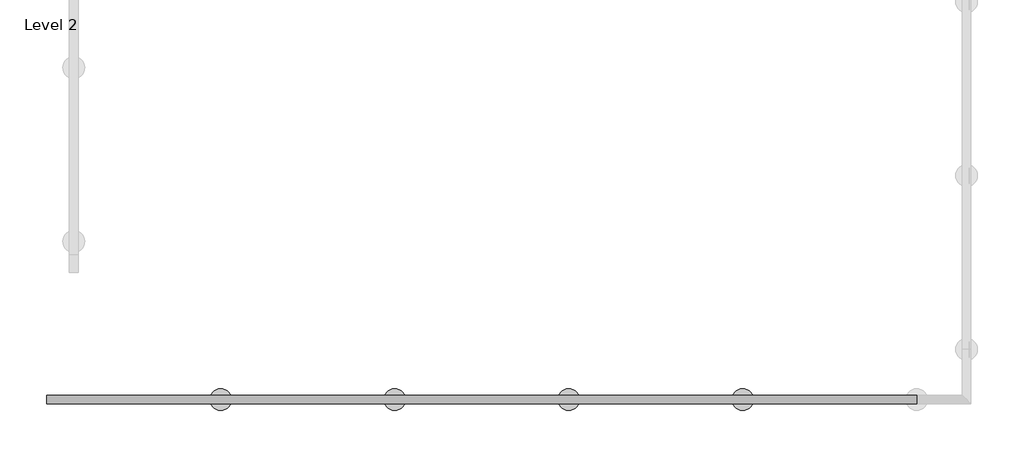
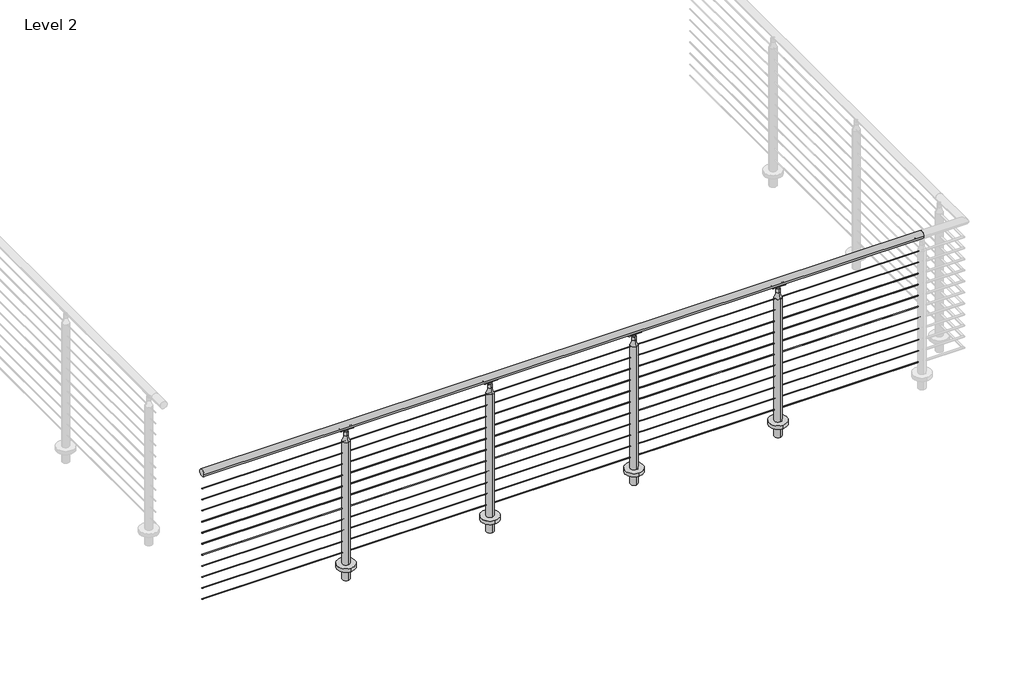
# One storey, part 18 of 21: 1 railing.
"""IFC4 building model written with IfcOpenShell, lengths in millimetres."""

from ifc_helpers import new_model, si_unit, point, frame, frame_2d, origin, place, context, project, spatial, polyline, circle_curve, ellipse_curve, trimmed, segment, composite_curve, outline, extrude, element, save
from ifc_brep_helpers import plane_surface, cylinder_surface, revolved_surface, advanced_brep

model = new_model("IFC4")

# Units and contexts
model_context = context("Model", 3, world=origin())
ifc_project = project(units=[si_unit("LENGTHUNIT", "METRE", prefix="MILLI")], contexts=[model_context])

# Site, building, storey
site = spatial("IfcSite", under=ifc_project)
building = spatial("IfcBuilding", under=site)
storey = spatial("IfcBuildingStorey", under=building, Name="Level 2", Elevation=3048.0)

# Railing
placement = place(None, origin())
element("IfcRailing", 1, ObjectType="VIVA-CIRCA-Cable-Core Mount-Straight", at=placement, inside=storey, context=model_context, shape_type="SolidModel", body=[
    extrude(outline(composite_curve([segment(trimmed(circle_curve(frame_2d((-52104.7426165, 4102.1)), 25.4), [point((-52130.1426165, 4102.1))], [point((-52079.3426165, 4102.1))], False, "CARTESIAN"), True, "CONTINUOUS"), segment(trimmed(circle_curve(frame_2d((-52104.7426165, 4102.1)), 25.4), [point((-52079.3426165, 4102.1))], [point((-52130.1426165, 4102.1))], False, "CARTESIAN"), True, "CONTINUOUS")], self_intersect=False)), frame((65723.1810647, 0.0, 0.0), z_axis=(1.0, 0.0, 0.0), x_axis=(0.0, 1.0, 0.0)), (0.0, 0.0, 1.0), 5080.0),
    extrude(outline(composite_curve([segment(trimmed(circle_curve(frame_2d((-52104.7426165, 3985.4124)), 2.3876), [point((-52102.3550165, 3985.4124))], [point((-52107.1302165, 3985.4124))], False, "CARTESIAN"), True, "CONTINUOUS"), segment(trimmed(circle_curve(frame_2d((-52104.7426165, 3985.4124)), 2.3876), [point((-52107.1302165, 3985.4124))], [point((-52102.3550165, 3985.4124))], False, "CARTESIAN"), True, "CONTINUOUS")], self_intersect=False)), frame((65723.1810647, 0.0, 0.0), z_axis=(1.0, 0.0, 0.0), x_axis=(0.0, 1.0, 0.0)), (0.0, 0.0, 1.0), 5080.0),
    extrude(outline(composite_curve([segment(trimmed(circle_curve(frame_2d((-52104.7426165, 3902.8624)), 2.3876), [point((-52102.3550165, 3902.8624))], [point((-52107.1302165, 3902.8624))], False, "CARTESIAN"), True, "CONTINUOUS"), segment(trimmed(circle_curve(frame_2d((-52104.7426165, 3902.8624)), 2.3876), [point((-52107.1302165, 3902.8624))], [point((-52102.3550165, 3902.8624))], False, "CARTESIAN"), True, "CONTINUOUS")], self_intersect=False)), frame((65723.1810647, 0.0, 0.0), z_axis=(1.0, 0.0, 0.0), x_axis=(0.0, 1.0, 0.0)), (0.0, 0.0, 1.0), 5080.0),
    extrude(outline(composite_curve([segment(trimmed(circle_curve(frame_2d((-52104.7426165, 3820.3124)), 2.3876), [point((-52102.3550165, 3820.3124))], [point((-52107.1302165, 3820.3124))], False, "CARTESIAN"), True, "CONTINUOUS"), segment(trimmed(circle_curve(frame_2d((-52104.7426165, 3820.3124)), 2.3876), [point((-52107.1302165, 3820.3124))], [point((-52102.3550165, 3820.3124))], False, "CARTESIAN"), True, "CONTINUOUS")], self_intersect=False)), frame((65723.1810647, 0.0, 0.0), z_axis=(1.0, 0.0, 0.0), x_axis=(0.0, 1.0, 0.0)), (0.0, 0.0, 1.0), 5080.0),
    extrude(outline(composite_curve([segment(trimmed(circle_curve(frame_2d((-52104.7426165, 3737.7624)), 2.3876), [point((-52102.3550165, 3737.7624))], [point((-52107.1302165, 3737.7624))], False, "CARTESIAN"), True, "CONTINUOUS"), segment(trimmed(circle_curve(frame_2d((-52104.7426165, 3737.7624)), 2.3876), [point((-52107.1302165, 3737.7624))], [point((-52102.3550165, 3737.7624))], False, "CARTESIAN"), True, "CONTINUOUS")], self_intersect=False)), frame((65723.1810647, 0.0, 0.0), z_axis=(1.0, 0.0, 0.0), x_axis=(0.0, 1.0, 0.0)), (0.0, 0.0, 1.0), 5080.0),
    extrude(outline(composite_curve([segment(trimmed(circle_curve(frame_2d((-52104.7426165, 3655.2124)), 2.3876), [point((-52102.3550165, 3655.2124))], [point((-52107.1302165, 3655.2124))], False, "CARTESIAN"), True, "CONTINUOUS"), segment(trimmed(circle_curve(frame_2d((-52104.7426165, 3655.2124)), 2.3876), [point((-52107.1302165, 3655.2124))], [point((-52102.3550165, 3655.2124))], False, "CARTESIAN"), True, "CONTINUOUS")], self_intersect=False)), frame((65723.1810647, 0.0, 0.0), z_axis=(1.0, 0.0, 0.0), x_axis=(0.0, 1.0, 0.0)), (0.0, 0.0, 1.0), 5080.0),
    extrude(outline(composite_curve([segment(trimmed(circle_curve(frame_2d((-52104.7426165, 3572.6624)), 2.3876), [point((-52102.3550165, 3572.6624))], [point((-52107.1302165, 3572.6624))], False, "CARTESIAN"), True, "CONTINUOUS"), segment(trimmed(circle_curve(frame_2d((-52104.7426165, 3572.6624)), 2.3876), [point((-52107.1302165, 3572.6624))], [point((-52102.3550165, 3572.6624))], False, "CARTESIAN"), True, "CONTINUOUS")], self_intersect=False)), frame((65723.1810647, 0.0, 0.0), z_axis=(1.0, 0.0, 0.0), x_axis=(0.0, 1.0, 0.0)), (0.0, 0.0, 1.0), 5080.0),
    extrude(outline(composite_curve([segment(trimmed(circle_curve(frame_2d((-52104.7426165, 3490.1124)), 2.3876), [point((-52102.3550165, 3490.1124))], [point((-52107.1302165, 3490.1124))], False, "CARTESIAN"), True, "CONTINUOUS"), segment(trimmed(circle_curve(frame_2d((-52104.7426165, 3490.1124)), 2.3876), [point((-52107.1302165, 3490.1124))], [point((-52102.3550165, 3490.1124))], False, "CARTESIAN"), True, "CONTINUOUS")], self_intersect=False)), frame((65723.1810647, 0.0, 0.0), z_axis=(1.0, 0.0, 0.0), x_axis=(0.0, 1.0, 0.0)), (0.0, 0.0, 1.0), 5080.0),
    extrude(outline(composite_curve([segment(trimmed(circle_curve(frame_2d((-52104.7426165, 3407.5624)), 2.3876), [point((-52102.3550165, 3407.5624))], [point((-52107.1302165, 3407.5624))], False, "CARTESIAN"), True, "CONTINUOUS"), segment(trimmed(circle_curve(frame_2d((-52104.7426165, 3407.5624)), 2.3876), [point((-52107.1302165, 3407.5624))], [point((-52102.3550165, 3407.5624))], False, "CARTESIAN"), True, "CONTINUOUS")], self_intersect=False)), frame((65723.1810647, 0.0, 0.0), z_axis=(1.0, 0.0, 0.0), x_axis=(0.0, 1.0, 0.0)), (0.0, 0.0, 1.0), 5080.0),
    extrude(outline(composite_curve([segment(trimmed(circle_curve(frame_2d((-52104.7426165, 3325.0124)), 2.3876), [point((-52102.3550165, 3325.0124))], [point((-52107.1302165, 3325.0124))], False, "CARTESIAN"), True, "CONTINUOUS"), segment(trimmed(circle_curve(frame_2d((-52104.7426165, 3325.0124)), 2.3876), [point((-52107.1302165, 3325.0124))], [point((-52102.3550165, 3325.0124))], False, "CARTESIAN"), True, "CONTINUOUS")], self_intersect=False)), frame((65723.1810647, 0.0, 0.0), z_axis=(1.0, 0.0, 0.0), x_axis=(0.0, 1.0, 0.0)), (0.0, 0.0, 1.0), 5080.0),
    extrude(outline(composite_curve([segment(trimmed(circle_curve(frame_2d((-52104.7426165, 3242.4624)), 2.3876), [point((-52102.3550165, 3242.4624))], [point((-52107.1302165, 3242.4624))], False, "CARTESIAN"), True, "CONTINUOUS"), segment(trimmed(circle_curve(frame_2d((-52104.7426165, 3242.4624)), 2.3876), [point((-52107.1302165, 3242.4624))], [point((-52102.3550165, 3242.4624))], False, "CARTESIAN"), True, "CONTINUOUS")], self_intersect=False)), frame((65723.1810647, 0.0, 0.0), z_axis=(1.0, 0.0, 0.0), x_axis=(0.0, 1.0, 0.0)), (0.0, 0.0, 1.0), 5080.0),
    extrude(outline(composite_curve([segment(trimmed(circle_curve(frame_2d((-52104.7426165, 3159.9124)), 2.3876), [point((-52102.3550165, 3159.9124))], [point((-52107.1302165, 3159.9124))], False, "CARTESIAN"), True, "CONTINUOUS"), segment(trimmed(circle_curve(frame_2d((-52104.7426165, 3159.9124)), 2.3876), [point((-52107.1302165, 3159.9124))], [point((-52102.3550165, 3159.9124))], False, "CARTESIAN"), True, "CONTINUOUS")], self_intersect=False)), frame((65723.1810647, 0.0, 0.0), z_axis=(1.0, 0.0, 0.0), x_axis=(0.0, 1.0, 0.0)), (0.0, 0.0, 1.0), 5080.0),
    extrude(outline(composite_curve([segment(trimmed(circle_curve(frame_2d((69787.5779397, -52104.7426165)), 63.5), [point((69787.5779397, -52168.2426165))], [point((69787.5779397, -52041.2426165))], False, "CARTESIAN"), True, "CONTINUOUS"), segment(trimmed(circle_curve(frame_2d((69787.5779397, -52104.7426165)), 63.5), [point((69787.5779397, -52041.2426165))], [point((69787.5779397, -52168.2426165))], False, "CARTESIAN"), True, "CONTINUOUS")], self_intersect=False)), frame((0.0, 0.0, 3048.0), z_axis=(0.0, 0.0, 1.0), x_axis=(1.0, 0.0, 0.0)), (0.0, 0.0, 1.0), 25.4),
    extrude(outline(composite_curve([segment(trimmed(circle_curve(frame_2d((-52104.6458882, 4103.4254922)), 25.4345159), [point((-52117.2096911, 4081.3106679))], [point((-52092.2506544, 4081.2157471))], True, "CARTESIAN"), True, "CONTINUOUS"), segment(trimmed(circle_curve(frame_2d((-52091.0060013, 4078.7132623)), 2.7949225), [point((-52092.2506544, 4081.2157471))], [point((-52089.5286962, 4076.3406769))], False, "CARTESIAN"), True, "CONTINUOUS"), segment(trimmed(circle_curve(frame_2d((-52104.7793513, 4104.1881188)), 31.75), [point((-52089.5286962, 4076.3406769))], [point((-52121.0455885, 4076.9214354))], False, "CARTESIAN"), True, "CONTINUOUS"), segment(trimmed(circle_curve(frame_2d((-52118.7572487, 4078.7923545)), 2.9558141), [point((-52121.0455885, 4076.9214354))], [point((-52117.2096911, 4081.3106679))], False, "CARTESIAN"), True, "CONTINUOUS")], self_intersect=False)), frame((69742.3405397, 0.0, 0.0), z_axis=(1.0, 0.0, 0.0), x_axis=(0.0, 1.0, 0.0)), (0.0, 0.0, 1.0), 90.4748),
    advanced_brep(
    [(69814.6458546, -52102.2026165, 4072.6506908), (69800.2779397, -52102.2026165, 4058.282776), (69774.8779397, -52102.2026165, 4058.282776), (69760.5100249, -52102.2026165, 4072.6506908), (69814.6458546, -52107.2826165, 4072.6506908), (69760.5100249, -52107.2826165, 4072.6506908), (69774.8779397, -52107.2826165, 4058.282776), (69800.2779397, -52107.2826165, 4058.282776)],
    [
        (0, 1, circle_curve(frame((69814.6458546, -52102.2026165, 4058.282776), z_axis=(0.0, -1.0, 0.0), x_axis=(-1.0, 0.0, 0.0)), 14.3679149)),
        (1, 2, circle_curve(frame((69787.5779397, -52102.2026165, 4058.282776), z_axis=(0.0, 1.0, 0.0), x_axis=(-1.0, 0.0, 0.0)), 12.7)),
        (2, 3, circle_curve(frame((69760.5100249, -52102.2026165, 4058.282776), z_axis=(0.0, -1.0, 0.0), x_axis=(-1.0, 0.0, 0.0)), 14.3679149)),
        (3, 0),
        (4, 5),
        (5, 6, circle_curve(frame((69760.5100249, -52107.2826165, 4058.282776), z_axis=(0.0, 1.0, 0.0), x_axis=(-1.0, 0.0, 0.0)), 14.3679149)),
        (6, 7, circle_curve(frame((69787.5779397, -52107.2826165, 4058.282776), z_axis=(0.0, -1.0, 0.0), x_axis=(-1.0, 0.0, 0.0)), 12.7)),
        (7, 4, circle_curve(frame((69814.6458546, -52107.2826165, 4058.282776), z_axis=(0.0, 1.0, 0.0), x_axis=(-1.0, 0.0, 0.0)), 14.3679149)),
        (0, 4),
        (7, 1),
        (6, 2),
        (5, 3),
    ],
    [
        plane_surface(frame((69800.2779397, -52102.2026165, 4058.282776), z_axis=(0.0, 1.0, 0.0), x_axis=(0.0, 0.0, -1.0))),
        plane_surface(frame((69800.2779397, -52107.2826165, 4058.282776), z_axis=(0.0, -1.0, 0.0), x_axis=(0.0, 0.0, 1.0))),
        revolved_surface(polyline([(69800.27793970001, -52107.2826165, 4058.282776), (69800.27793970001, -52102.2026165, 4058.282776)]), (69814.6458546, -52107.2826165, 4058.282776), (0.0, -1.0, 0.0)),
        cylinder_surface(frame((69787.5779397, -52107.2826165, 4058.282776), z_axis=(0.0, 1.0, 0.0), x_axis=(-1.0, 0.0, 0.0)), 12.7),
        revolved_surface(polyline([(69746.14211, -52107.2826165, 4058.282776), (69746.14211, -52102.2026165, 4058.282776)]), (69760.5100249, -52107.2826165, 4058.282776), (0.0, -1.0, 0.0)),
        plane_surface(frame((69760.5100249, -52102.2026165, 4072.6506908), z_axis=(0.0, 0.0, 1.0), x_axis=(0.0, -1.0, 0.0))),
    ],
    [
        (0, [[1, 2, 3, 4]]),
        (1, [[5, 6, 7, 8]]),
        (2, [[-1, 9, -8, 10]]),
        (3, [[-2, -10, -7, 11]]),
        (4, [[-3, -11, -6, 12]]),
        (5, [[-4, -12, -5, -9]]),
    ],
),
    advanced_brep(
    [(69787.5779397, -52130.1420143, 3989.1347854), (69787.5779397, -52079.3432187, 3989.1347854), (69787.5779397, -52079.3432187, 2959.1), (69787.5779397, -52130.1420143, 2959.1), (69787.5779397, -52117.4805851, 4027.3486202), (69787.5779397, -52092.004648, 4027.3486202), (69787.5779397, -52117.4805851, 4056.5779599), (69787.5779397, -52092.004648, 4056.5779599), (69787.5779397, -52104.7426165, 4063.238668), (69787.5779397, -52104.7426165, 2959.1)],
    [
        (0, 1, circle_curve(frame((69787.5779397, -52104.7426165, 3989.1347854), z_axis=(0.0, 0.0, -1.0), x_axis=(0.0, 1.0, 0.0)), 25.3993978)),
        (1, 2),
        (2, 3, circle_curve(frame((69787.5779397, -52104.7426165, 2959.1), z_axis=(0.0, 0.0, 1.0), x_axis=(0.0, 1.0, 0.0)), 25.3993978)),
        (3, 0),
        (1, 0, circle_curve(frame((69787.5779397, -52104.7426165, 3989.1347854), z_axis=(0.0, 0.0, -1.0), x_axis=(0.0, 1.0, 0.0)), 25.3993978)),
        (3, 2, circle_curve(frame((69787.5779397, -52104.7426165, 2959.1), z_axis=(0.0, 0.0, 1.0), x_axis=(0.0, 1.0, 0.0)), 25.3993978)),
        (4, 5, circle_curve(frame((69787.5779397, -52104.7426165, 4027.3486202), z_axis=(0.0, 0.0, -1.0), x_axis=(0.0, 1.0, 0.0)), 12.7379685)),
        (5, 1, circle_curve(frame((69787.5779397, -52028.0067797, 4027.3486202), z_axis=(1.0, 0.0, 0.0), x_axis=(0.0, 1.0, 0.0)), 63.9978683)),
        (0, 4, circle_curve(frame((69787.5779397, -52181.4784534, 4027.3486202), z_axis=(1.0, 0.0, 0.0), x_axis=(0.0, -1.0, 0.0)), 63.9978683)),
        (5, 4, circle_curve(frame((69787.5779397, -52104.7426165, 4027.3486202), z_axis=(0.0, 0.0, -1.0), x_axis=(0.0, 1.0, 0.0)), 12.7379685)),
        (6, 7, circle_curve(frame((69787.5779397, -52104.7426165, 4056.5779599), z_axis=(0.0, 0.0, -1.0), x_axis=(0.0, 1.0, 0.0)), 12.7379685)),
        (7, 5),
        (4, 6),
        (7, 6, circle_curve(frame((69787.5779397, -52104.7426165, 4056.5779599), z_axis=(0.0, 0.0, -1.0), x_axis=(0.0, 1.0, 0.0)), 12.7379685)),
        (8, 7, circle_curve(frame((69787.5779397, -52104.7426165, 4047.7282394), z_axis=(-1.0, 0.0, 0.0), x_axis=(0.0, 1.0, 0.0)), 15.5104286)),
        (6, 8, circle_curve(frame((69787.5779397, -52104.7426165, 4047.7282394), z_axis=(-1.0, 0.0, 0.0), x_axis=(0.0, -1.0, 0.0)), 15.5104286)),
        (2, 9),
        (9, 3),
    ],
    [
        cylinder_surface(frame((69787.5779397, -52104.7426165, 4152.9), z_axis=(0.0, 0.0, 1.0), x_axis=(0.0, 1.0, 0.0)), 25.3993978),
        revolved_surface(trimmed(ellipse_curve(frame((69787.5779397, -52028.0067797, 4027.3486202), z_axis=(-1.0, 0.0, 0.0), x_axis=(0.0, 1.0, 0.0)), 63.9978683, 63.9978683), [point((69787.5779397, -52079.3432187, 3989.1347854))], [point((69787.5779397, -52092.004648, 4027.3486202))], True, "CARTESIAN"), (69787.5779397, -52104.7426165, 4152.9), (0.0, 0.0, 1.0)),
        cylinder_surface(frame((69787.5779397, -52104.7426165, 4152.9), z_axis=(0.0, 0.0, 1.0), x_axis=(0.0, 1.0, 0.0)), 12.7379685),
        revolved_surface(trimmed(ellipse_curve(frame((69787.5779397, -52104.7426165, 4047.7282394), z_axis=(1.0, 0.0, 0.0), x_axis=(0.0, 1.0, 0.0)), 15.5104286, 15.5104286), [point((69787.5779397, -52092.004648, 4056.5779599))], [point((69787.5779397, -52104.7426165, 4063.238668))], True, "CARTESIAN"), (69787.5779397, -52104.7426165, 4152.9), (0.0, 0.0, 1.0)),
        plane_surface(frame((69787.5779397, -52104.7426165, 2959.1), z_axis=(0.0, 0.0, -1.0), x_axis=(0.0, 1.0, 0.0))),
    ],
    [
        (0, [[1, 2, 3, 4]]),
        (0, [[5, -4, 6, -2]]),
        (1, [[7, 8, -1, 9]]),
        (1, [[10, -9, -5, -8]]),
        (2, [[11, 12, -7, 13]]),
        (2, [[14, -13, -10, -12]]),
        (3, [[15, -11, 16]]),
        (3, [[-16, -14, -15]]),
        (4, [[-3, 17, 18]]),
        (4, [[-6, -18, -17]]),
    ],
),
    extrude(outline(composite_curve([segment(trimmed(circle_curve(frame_2d((68771.5779397, -52104.7426165)), 63.5), [point((68771.5779397, -52168.2426165))], [point((68771.5779397, -52041.2426165))], False, "CARTESIAN"), True, "CONTINUOUS"), segment(trimmed(circle_curve(frame_2d((68771.5779397, -52104.7426165)), 63.5), [point((68771.5779397, -52041.2426165))], [point((68771.5779397, -52168.2426165))], False, "CARTESIAN"), True, "CONTINUOUS")], self_intersect=False)), frame((0.0, 0.0, 3048.0), z_axis=(0.0, 0.0, 1.0), x_axis=(1.0, 0.0, 0.0)), (0.0, 0.0, 1.0), 25.4),
    extrude(outline(composite_curve([segment(trimmed(circle_curve(frame_2d((-52104.6458882, 4103.4254922)), 25.4345159), [point((-52117.2096911, 4081.3106679))], [point((-52092.2506544, 4081.2157471))], True, "CARTESIAN"), True, "CONTINUOUS"), segment(trimmed(circle_curve(frame_2d((-52091.0060013, 4078.7132623)), 2.7949225), [point((-52092.2506544, 4081.2157471))], [point((-52089.5286962, 4076.3406769))], False, "CARTESIAN"), True, "CONTINUOUS"), segment(trimmed(circle_curve(frame_2d((-52104.7793513, 4104.1881188)), 31.75), [point((-52089.5286962, 4076.3406769))], [point((-52121.0455885, 4076.9214354))], False, "CARTESIAN"), True, "CONTINUOUS"), segment(trimmed(circle_curve(frame_2d((-52118.7572487, 4078.7923545)), 2.9558141), [point((-52121.0455885, 4076.9214354))], [point((-52117.2096911, 4081.3106679))], False, "CARTESIAN"), True, "CONTINUOUS")], self_intersect=False)), frame((68726.3405397, 0.0, 0.0), z_axis=(1.0, 0.0, 0.0), x_axis=(0.0, 1.0, 0.0)), (0.0, 0.0, 1.0), 90.4748),
    advanced_brep(
    [(68798.6458546, -52102.2026165, 4072.6506908), (68784.2779397, -52102.2026165, 4058.282776), (68758.8779397, -52102.2026165, 4058.282776), (68744.5100249, -52102.2026165, 4072.6506908), (68798.6458546, -52107.2826165, 4072.6506908), (68744.5100249, -52107.2826165, 4072.6506908), (68758.8779397, -52107.2826165, 4058.282776), (68784.2779397, -52107.2826165, 4058.282776)],
    [
        (0, 1, circle_curve(frame((68798.6458546, -52102.2026165, 4058.282776), z_axis=(0.0, -1.0, 0.0), x_axis=(-1.0, 0.0, 0.0)), 14.3679149)),
        (1, 2, circle_curve(frame((68771.5779397, -52102.2026165, 4058.282776), z_axis=(0.0, 1.0, 0.0), x_axis=(-1.0, 0.0, 0.0)), 12.7)),
        (2, 3, circle_curve(frame((68744.5100249, -52102.2026165, 4058.282776), z_axis=(0.0, -1.0, 0.0), x_axis=(-1.0, 0.0, 0.0)), 14.3679149)),
        (3, 0),
        (4, 5),
        (5, 6, circle_curve(frame((68744.5100249, -52107.2826165, 4058.282776), z_axis=(0.0, 1.0, 0.0), x_axis=(-1.0, 0.0, 0.0)), 14.3679149)),
        (6, 7, circle_curve(frame((68771.5779397, -52107.2826165, 4058.282776), z_axis=(0.0, -1.0, 0.0), x_axis=(-1.0, 0.0, 0.0)), 12.7)),
        (7, 4, circle_curve(frame((68798.6458546, -52107.2826165, 4058.282776), z_axis=(0.0, 1.0, 0.0), x_axis=(-1.0, 0.0, 0.0)), 14.3679149)),
        (0, 4),
        (7, 1),
        (6, 2),
        (5, 3),
    ],
    [
        plane_surface(frame((68784.2779397, -52102.2026165, 4058.282776), z_axis=(0.0, 1.0, 0.0), x_axis=(0.0, 0.0, -1.0))),
        plane_surface(frame((68784.2779397, -52107.2826165, 4058.282776), z_axis=(0.0, -1.0, 0.0), x_axis=(0.0, 0.0, 1.0))),
        revolved_surface(polyline([(68784.27793970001, -52107.2826165, 4058.282776), (68784.27793970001, -52102.2026165, 4058.282776)]), (68798.6458546, -52107.2826165, 4058.282776), (0.0, -1.0, 0.0)),
        cylinder_surface(frame((68771.5779397, -52107.2826165, 4058.282776), z_axis=(0.0, 1.0, 0.0), x_axis=(-1.0, 0.0, 0.0)), 12.7),
        revolved_surface(polyline([(68730.14211, -52107.2826165, 4058.282776), (68730.14211, -52102.2026165, 4058.282776)]), (68744.5100249, -52107.2826165, 4058.282776), (0.0, -1.0, 0.0)),
        plane_surface(frame((68744.5100249, -52102.2026165, 4072.6506908), z_axis=(0.0, 0.0, 1.0), x_axis=(0.0, -1.0, 0.0))),
    ],
    [
        (0, [[1, 2, 3, 4]]),
        (1, [[5, 6, 7, 8]]),
        (2, [[-1, 9, -8, 10]]),
        (3, [[-2, -10, -7, 11]]),
        (4, [[-3, -11, -6, 12]]),
        (5, [[-4, -12, -5, -9]]),
    ],
),
    advanced_brep(
    [(68771.5779397, -52130.1420143, 3989.1347854), (68771.5779397, -52079.3432187, 3989.1347854), (68771.5779397, -52079.3432187, 2959.1), (68771.5779397, -52130.1420143, 2959.1), (68771.5779397, -52117.4805851, 4027.3486202), (68771.5779397, -52092.004648, 4027.3486202), (68771.5779397, -52117.4805851, 4056.5779599), (68771.5779397, -52092.004648, 4056.5779599), (68771.5779397, -52104.7426165, 4063.238668), (68771.5779397, -52104.7426165, 2959.1)],
    [
        (0, 1, circle_curve(frame((68771.5779397, -52104.7426165, 3989.1347854), z_axis=(0.0, 0.0, -1.0), x_axis=(0.0, 1.0, 0.0)), 25.3993978)),
        (1, 2),
        (2, 3, circle_curve(frame((68771.5779397, -52104.7426165, 2959.1), z_axis=(0.0, 0.0, 1.0), x_axis=(0.0, 1.0, 0.0)), 25.3993978)),
        (3, 0),
        (1, 0, circle_curve(frame((68771.5779397, -52104.7426165, 3989.1347854), z_axis=(0.0, 0.0, -1.0), x_axis=(0.0, 1.0, 0.0)), 25.3993978)),
        (3, 2, circle_curve(frame((68771.5779397, -52104.7426165, 2959.1), z_axis=(0.0, 0.0, 1.0), x_axis=(0.0, 1.0, 0.0)), 25.3993978)),
        (4, 5, circle_curve(frame((68771.5779397, -52104.7426165, 4027.3486202), z_axis=(0.0, 0.0, -1.0), x_axis=(0.0, 1.0, 0.0)), 12.7379685)),
        (5, 1, circle_curve(frame((68771.5779397, -52028.0067797, 4027.3486202), z_axis=(1.0, 0.0, 0.0), x_axis=(0.0, 1.0, 0.0)), 63.9978683)),
        (0, 4, circle_curve(frame((68771.5779397, -52181.4784534, 4027.3486202), z_axis=(1.0, 0.0, 0.0), x_axis=(0.0, -1.0, 0.0)), 63.9978683)),
        (5, 4, circle_curve(frame((68771.5779397, -52104.7426165, 4027.3486202), z_axis=(0.0, 0.0, -1.0), x_axis=(0.0, 1.0, 0.0)), 12.7379685)),
        (6, 7, circle_curve(frame((68771.5779397, -52104.7426165, 4056.5779599), z_axis=(0.0, 0.0, -1.0), x_axis=(0.0, 1.0, 0.0)), 12.7379685)),
        (7, 5),
        (4, 6),
        (7, 6, circle_curve(frame((68771.5779397, -52104.7426165, 4056.5779599), z_axis=(0.0, 0.0, -1.0), x_axis=(0.0, 1.0, 0.0)), 12.7379685)),
        (8, 7, circle_curve(frame((68771.5779397, -52104.7426165, 4047.7282394), z_axis=(-1.0, 0.0, 0.0), x_axis=(0.0, 1.0, 0.0)), 15.5104286)),
        (6, 8, circle_curve(frame((68771.5779397, -52104.7426165, 4047.7282394), z_axis=(-1.0, 0.0, 0.0), x_axis=(0.0, -1.0, 0.0)), 15.5104286)),
        (2, 9),
        (9, 3),
    ],
    [
        cylinder_surface(frame((68771.5779397, -52104.7426165, 4152.9), z_axis=(0.0, 0.0, 1.0), x_axis=(0.0, 1.0, 0.0)), 25.3993978),
        revolved_surface(trimmed(ellipse_curve(frame((68771.5779397, -52028.0067797, 4027.3486202), z_axis=(-1.0, 0.0, 0.0), x_axis=(0.0, 1.0, 0.0)), 63.9978683, 63.9978683), [point((68771.5779397, -52079.3432187, 3989.1347854))], [point((68771.5779397, -52092.004648, 4027.3486202))], True, "CARTESIAN"), (68771.5779397, -52104.7426165, 4152.9), (0.0, 0.0, 1.0)),
        cylinder_surface(frame((68771.5779397, -52104.7426165, 4152.9), z_axis=(0.0, 0.0, 1.0), x_axis=(0.0, 1.0, 0.0)), 12.7379685),
        revolved_surface(trimmed(ellipse_curve(frame((68771.5779397, -52104.7426165, 4047.7282394), z_axis=(1.0, 0.0, 0.0), x_axis=(0.0, 1.0, 0.0)), 15.5104286, 15.5104286), [point((68771.5779397, -52092.004648, 4056.5779599))], [point((68771.5779397, -52104.7426165, 4063.238668))], True, "CARTESIAN"), (68771.5779397, -52104.7426165, 4152.9), (0.0, 0.0, 1.0)),
        plane_surface(frame((68771.5779397, -52104.7426165, 2959.1), z_axis=(0.0, 0.0, -1.0), x_axis=(0.0, 1.0, 0.0))),
    ],
    [
        (0, [[1, 2, 3, 4]]),
        (0, [[5, -4, 6, -2]]),
        (1, [[7, 8, -1, 9]]),
        (1, [[10, -9, -5, -8]]),
        (2, [[11, 12, -7, 13]]),
        (2, [[14, -13, -10, -12]]),
        (3, [[15, -11, 16]]),
        (3, [[-16, -14, -15]]),
        (4, [[-3, 17, 18]]),
        (4, [[-6, -18, -17]]),
    ],
),
    extrude(outline(composite_curve([segment(trimmed(circle_curve(frame_2d((67755.5779397, -52104.7426165)), 63.5), [point((67755.5779397, -52168.2426165))], [point((67755.5779397, -52041.2426165))], False, "CARTESIAN"), True, "CONTINUOUS"), segment(trimmed(circle_curve(frame_2d((67755.5779397, -52104.7426165)), 63.5), [point((67755.5779397, -52041.2426165))], [point((67755.5779397, -52168.2426165))], False, "CARTESIAN"), True, "CONTINUOUS")], self_intersect=False)), frame((0.0, 0.0, 3048.0), z_axis=(0.0, 0.0, 1.0), x_axis=(1.0, 0.0, 0.0)), (0.0, 0.0, 1.0), 25.4),
    extrude(outline(composite_curve([segment(trimmed(circle_curve(frame_2d((-52104.6458882, 4103.4254922)), 25.4345159), [point((-52117.2096911, 4081.3106679))], [point((-52092.2506544, 4081.2157471))], True, "CARTESIAN"), True, "CONTINUOUS"), segment(trimmed(circle_curve(frame_2d((-52091.0060013, 4078.7132623)), 2.7949225), [point((-52092.2506544, 4081.2157471))], [point((-52089.5286962, 4076.3406769))], False, "CARTESIAN"), True, "CONTINUOUS"), segment(trimmed(circle_curve(frame_2d((-52104.7793513, 4104.1881188)), 31.75), [point((-52089.5286962, 4076.3406769))], [point((-52121.0455885, 4076.9214354))], False, "CARTESIAN"), True, "CONTINUOUS"), segment(trimmed(circle_curve(frame_2d((-52118.7572487, 4078.7923545)), 2.9558141), [point((-52121.0455885, 4076.9214354))], [point((-52117.2096911, 4081.3106679))], False, "CARTESIAN"), True, "CONTINUOUS")], self_intersect=False)), frame((67710.3405397, 0.0, 0.0), z_axis=(1.0, 0.0, 0.0), x_axis=(0.0, 1.0, 0.0)), (0.0, 0.0, 1.0), 90.4748),
    advanced_brep(
    [(67782.6458546, -52102.2026165, 4072.6506908), (67768.2779397, -52102.2026165, 4058.282776), (67742.8779397, -52102.2026165, 4058.282776), (67728.5100249, -52102.2026165, 4072.6506908), (67782.6458546, -52107.2826165, 4072.6506908), (67728.5100249, -52107.2826165, 4072.6506908), (67742.8779397, -52107.2826165, 4058.282776), (67768.2779397, -52107.2826165, 4058.282776)],
    [
        (0, 1, circle_curve(frame((67782.6458546, -52102.2026165, 4058.282776), z_axis=(0.0, -1.0, 0.0), x_axis=(-1.0, 0.0, 0.0)), 14.3679149)),
        (1, 2, circle_curve(frame((67755.5779397, -52102.2026165, 4058.282776), z_axis=(0.0, 1.0, 0.0), x_axis=(-1.0, 0.0, 0.0)), 12.7)),
        (2, 3, circle_curve(frame((67728.5100249, -52102.2026165, 4058.282776), z_axis=(0.0, -1.0, 0.0), x_axis=(-1.0, 0.0, 0.0)), 14.3679149)),
        (3, 0),
        (4, 5),
        (5, 6, circle_curve(frame((67728.5100249, -52107.2826165, 4058.282776), z_axis=(0.0, 1.0, 0.0), x_axis=(-1.0, 0.0, 0.0)), 14.3679149)),
        (6, 7, circle_curve(frame((67755.5779397, -52107.2826165, 4058.282776), z_axis=(0.0, -1.0, 0.0), x_axis=(-1.0, 0.0, 0.0)), 12.7)),
        (7, 4, circle_curve(frame((67782.6458546, -52107.2826165, 4058.282776), z_axis=(0.0, 1.0, 0.0), x_axis=(-1.0, 0.0, 0.0)), 14.3679149)),
        (0, 4),
        (7, 1),
        (6, 2),
        (5, 3),
    ],
    [
        plane_surface(frame((67768.2779397, -52102.2026165, 4058.282776), z_axis=(0.0, 1.0, 0.0), x_axis=(0.0, 0.0, -1.0))),
        plane_surface(frame((67768.2779397, -52107.2826165, 4058.282776), z_axis=(0.0, -1.0, 0.0), x_axis=(0.0, 0.0, 1.0))),
        revolved_surface(polyline([(67768.27793970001, -52107.2826165, 4058.282776), (67768.27793970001, -52102.2026165, 4058.282776)]), (67782.6458546, -52107.2826165, 4058.282776), (0.0, -1.0, 0.0)),
        cylinder_surface(frame((67755.5779397, -52107.2826165, 4058.282776), z_axis=(0.0, 1.0, 0.0), x_axis=(-1.0, 0.0, 0.0)), 12.7),
        revolved_surface(polyline([(67714.14211, -52107.2826165, 4058.282776), (67714.14211, -52102.2026165, 4058.282776)]), (67728.5100249, -52107.2826165, 4058.282776), (0.0, -1.0, 0.0)),
        plane_surface(frame((67728.5100249, -52102.2026165, 4072.6506908), z_axis=(0.0, 0.0, 1.0), x_axis=(0.0, -1.0, 0.0))),
    ],
    [
        (0, [[1, 2, 3, 4]]),
        (1, [[5, 6, 7, 8]]),
        (2, [[-1, 9, -8, 10]]),
        (3, [[-2, -10, -7, 11]]),
        (4, [[-3, -11, -6, 12]]),
        (5, [[-4, -12, -5, -9]]),
    ],
),
    advanced_brep(
    [(67755.5779397, -52130.1420143, 3989.1347854), (67755.5779397, -52079.3432187, 3989.1347854), (67755.5779397, -52079.3432187, 2959.1), (67755.5779397, -52130.1420143, 2959.1), (67755.5779397, -52117.4805851, 4027.3486202), (67755.5779397, -52092.004648, 4027.3486202), (67755.5779397, -52117.4805851, 4056.5779599), (67755.5779397, -52092.004648, 4056.5779599), (67755.5779397, -52104.7426165, 4063.238668), (67755.5779397, -52104.7426165, 2959.1)],
    [
        (0, 1, circle_curve(frame((67755.5779397, -52104.7426165, 3989.1347854), z_axis=(0.0, 0.0, -1.0), x_axis=(0.0, 1.0, 0.0)), 25.3993978)),
        (1, 2),
        (2, 3, circle_curve(frame((67755.5779397, -52104.7426165, 2959.1), z_axis=(0.0, 0.0, 1.0), x_axis=(0.0, 1.0, 0.0)), 25.3993978)),
        (3, 0),
        (1, 0, circle_curve(frame((67755.5779397, -52104.7426165, 3989.1347854), z_axis=(0.0, 0.0, -1.0), x_axis=(0.0, 1.0, 0.0)), 25.3993978)),
        (3, 2, circle_curve(frame((67755.5779397, -52104.7426165, 2959.1), z_axis=(0.0, 0.0, 1.0), x_axis=(0.0, 1.0, 0.0)), 25.3993978)),
        (4, 5, circle_curve(frame((67755.5779397, -52104.7426165, 4027.3486202), z_axis=(0.0, 0.0, -1.0), x_axis=(0.0, 1.0, 0.0)), 12.7379685)),
        (5, 1, circle_curve(frame((67755.5779397, -52028.0067797, 4027.3486202), z_axis=(1.0, 0.0, 0.0), x_axis=(0.0, 1.0, 0.0)), 63.9978683)),
        (0, 4, circle_curve(frame((67755.5779397, -52181.4784534, 4027.3486202), z_axis=(1.0, 0.0, 0.0), x_axis=(0.0, -1.0, 0.0)), 63.9978683)),
        (5, 4, circle_curve(frame((67755.5779397, -52104.7426165, 4027.3486202), z_axis=(0.0, 0.0, -1.0), x_axis=(0.0, 1.0, 0.0)), 12.7379685)),
        (6, 7, circle_curve(frame((67755.5779397, -52104.7426165, 4056.5779599), z_axis=(0.0, 0.0, -1.0), x_axis=(0.0, 1.0, 0.0)), 12.7379685)),
        (7, 5),
        (4, 6),
        (7, 6, circle_curve(frame((67755.5779397, -52104.7426165, 4056.5779599), z_axis=(0.0, 0.0, -1.0), x_axis=(0.0, 1.0, 0.0)), 12.7379685)),
        (8, 7, circle_curve(frame((67755.5779397, -52104.7426165, 4047.7282394), z_axis=(-1.0, 0.0, 0.0), x_axis=(0.0, 1.0, 0.0)), 15.5104286)),
        (6, 8, circle_curve(frame((67755.5779397, -52104.7426165, 4047.7282394), z_axis=(-1.0, 0.0, 0.0), x_axis=(0.0, -1.0, 0.0)), 15.5104286)),
        (2, 9),
        (9, 3),
    ],
    [
        cylinder_surface(frame((67755.5779397, -52104.7426165, 4152.9), z_axis=(0.0, 0.0, 1.0), x_axis=(0.0, 1.0, 0.0)), 25.3993978),
        revolved_surface(trimmed(ellipse_curve(frame((67755.5779397, -52028.0067797, 4027.3486202), z_axis=(-1.0, 0.0, 0.0), x_axis=(0.0, 1.0, 0.0)), 63.9978683, 63.9978683), [point((67755.5779397, -52079.3432187, 3989.1347854))], [point((67755.5779397, -52092.004648, 4027.3486202))], True, "CARTESIAN"), (67755.5779397, -52104.7426165, 4152.9), (0.0, 0.0, 1.0)),
        cylinder_surface(frame((67755.5779397, -52104.7426165, 4152.9), z_axis=(0.0, 0.0, 1.0), x_axis=(0.0, 1.0, 0.0)), 12.7379685),
        revolved_surface(trimmed(ellipse_curve(frame((67755.5779397, -52104.7426165, 4047.7282394), z_axis=(1.0, 0.0, 0.0), x_axis=(0.0, 1.0, 0.0)), 15.5104286, 15.5104286), [point((67755.5779397, -52092.004648, 4056.5779599))], [point((67755.5779397, -52104.7426165, 4063.238668))], True, "CARTESIAN"), (67755.5779397, -52104.7426165, 4152.9), (0.0, 0.0, 1.0)),
        plane_surface(frame((67755.5779397, -52104.7426165, 2959.1), z_axis=(0.0, 0.0, -1.0), x_axis=(0.0, 1.0, 0.0))),
    ],
    [
        (0, [[1, 2, 3, 4]]),
        (0, [[5, -4, 6, -2]]),
        (1, [[7, 8, -1, 9]]),
        (1, [[10, -9, -5, -8]]),
        (2, [[11, 12, -7, 13]]),
        (2, [[14, -13, -10, -12]]),
        (3, [[15, -11, 16]]),
        (3, [[-16, -14, -15]]),
        (4, [[-3, 17, 18]]),
        (4, [[-6, -18, -17]]),
    ],
),
    extrude(outline(composite_curve([segment(trimmed(circle_curve(frame_2d((66739.5779397, -52104.7426165)), 63.5), [point((66739.5779397, -52168.2426165))], [point((66739.5779397, -52041.2426165))], False, "CARTESIAN"), True, "CONTINUOUS"), segment(trimmed(circle_curve(frame_2d((66739.5779397, -52104.7426165)), 63.5), [point((66739.5779397, -52041.2426165))], [point((66739.5779397, -52168.2426165))], False, "CARTESIAN"), True, "CONTINUOUS")], self_intersect=False)), frame((0.0, 0.0, 3048.0), z_axis=(0.0, 0.0, 1.0), x_axis=(1.0, 0.0, 0.0)), (0.0, 0.0, 1.0), 25.4),
    extrude(outline(composite_curve([segment(trimmed(circle_curve(frame_2d((-52104.6458882, 4103.4254922)), 25.4345159), [point((-52117.2096911, 4081.3106679))], [point((-52092.2506544, 4081.2157471))], True, "CARTESIAN"), True, "CONTINUOUS"), segment(trimmed(circle_curve(frame_2d((-52091.0060013, 4078.7132623)), 2.7949225), [point((-52092.2506544, 4081.2157471))], [point((-52089.5286962, 4076.3406769))], False, "CARTESIAN"), True, "CONTINUOUS"), segment(trimmed(circle_curve(frame_2d((-52104.7793513, 4104.1881188)), 31.75), [point((-52089.5286962, 4076.3406769))], [point((-52121.0455885, 4076.9214354))], False, "CARTESIAN"), True, "CONTINUOUS"), segment(trimmed(circle_curve(frame_2d((-52118.7572487, 4078.7923545)), 2.9558141), [point((-52121.0455885, 4076.9214354))], [point((-52117.2096911, 4081.3106679))], False, "CARTESIAN"), True, "CONTINUOUS")], self_intersect=False)), frame((66694.3405397, 0.0, 0.0), z_axis=(1.0, 0.0, 0.0), x_axis=(0.0, 1.0, 0.0)), (0.0, 0.0, 1.0), 90.4748),
    advanced_brep(
    [(66766.6458546, -52102.2026165, 4072.6506908), (66752.2779397, -52102.2026165, 4058.282776), (66726.8779397, -52102.2026165, 4058.282776), (66712.5100249, -52102.2026165, 4072.6506908), (66766.6458546, -52107.2826165, 4072.6506908), (66712.5100249, -52107.2826165, 4072.6506908), (66726.8779397, -52107.2826165, 4058.282776), (66752.2779397, -52107.2826165, 4058.282776)],
    [
        (0, 1, circle_curve(frame((66766.6458546, -52102.2026165, 4058.282776), z_axis=(0.0, -1.0, 0.0), x_axis=(-1.0, 0.0, 0.0)), 14.3679149)),
        (1, 2, circle_curve(frame((66739.5779397, -52102.2026165, 4058.282776), z_axis=(0.0, 1.0, 0.0), x_axis=(-1.0, 0.0, 0.0)), 12.7)),
        (2, 3, circle_curve(frame((66712.5100249, -52102.2026165, 4058.282776), z_axis=(0.0, -1.0, 0.0), x_axis=(-1.0, 0.0, 0.0)), 14.3679149)),
        (3, 0),
        (4, 5),
        (5, 6, circle_curve(frame((66712.5100249, -52107.2826165, 4058.282776), z_axis=(0.0, 1.0, 0.0), x_axis=(-1.0, 0.0, 0.0)), 14.3679149)),
        (6, 7, circle_curve(frame((66739.5779397, -52107.2826165, 4058.282776), z_axis=(0.0, -1.0, 0.0), x_axis=(-1.0, 0.0, 0.0)), 12.7)),
        (7, 4, circle_curve(frame((66766.6458546, -52107.2826165, 4058.282776), z_axis=(0.0, 1.0, 0.0), x_axis=(-1.0, 0.0, 0.0)), 14.3679149)),
        (0, 4),
        (7, 1),
        (6, 2),
        (5, 3),
    ],
    [
        plane_surface(frame((66752.2779397, -52102.2026165, 4058.282776), z_axis=(0.0, 1.0, 0.0), x_axis=(0.0, 0.0, -1.0))),
        plane_surface(frame((66752.2779397, -52107.2826165, 4058.282776), z_axis=(0.0, -1.0, 0.0), x_axis=(0.0, 0.0, 1.0))),
        revolved_surface(polyline([(66752.27793970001, -52107.2826165, 4058.282776), (66752.27793970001, -52102.2026165, 4058.282776)]), (66766.6458546, -52107.2826165, 4058.282776), (0.0, -1.0, 0.0)),
        cylinder_surface(frame((66739.5779397, -52107.2826165, 4058.282776), z_axis=(0.0, 1.0, 0.0), x_axis=(-1.0, 0.0, 0.0)), 12.7),
        revolved_surface(polyline([(66698.14211, -52107.2826165, 4058.282776), (66698.14211, -52102.2026165, 4058.282776)]), (66712.5100249, -52107.2826165, 4058.282776), (0.0, -1.0, 0.0)),
        plane_surface(frame((66712.5100249, -52102.2026165, 4072.6506908), z_axis=(0.0, 0.0, 1.0), x_axis=(0.0, -1.0, 0.0))),
    ],
    [
        (0, [[1, 2, 3, 4]]),
        (1, [[5, 6, 7, 8]]),
        (2, [[-1, 9, -8, 10]]),
        (3, [[-2, -10, -7, 11]]),
        (4, [[-3, -11, -6, 12]]),
        (5, [[-4, -12, -5, -9]]),
    ],
),
    advanced_brep(
    [(66739.5779397, -52130.1420143, 3989.1347854), (66739.5779397, -52079.3432187, 3989.1347854), (66739.5779397, -52079.3432187, 2959.1), (66739.5779397, -52130.1420143, 2959.1), (66739.5779397, -52117.4805851, 4027.3486202), (66739.5779397, -52092.004648, 4027.3486202), (66739.5779397, -52117.4805851, 4056.5779599), (66739.5779397, -52092.004648, 4056.5779599), (66739.5779397, -52104.7426165, 4063.238668), (66739.5779397, -52104.7426165, 2959.1)],
    [
        (0, 1, circle_curve(frame((66739.5779397, -52104.7426165, 3989.1347854), z_axis=(0.0, 0.0, -1.0), x_axis=(0.0, 1.0, 0.0)), 25.3993978)),
        (1, 2),
        (2, 3, circle_curve(frame((66739.5779397, -52104.7426165, 2959.1), z_axis=(0.0, 0.0, 1.0), x_axis=(0.0, 1.0, 0.0)), 25.3993978)),
        (3, 0),
        (1, 0, circle_curve(frame((66739.5779397, -52104.7426165, 3989.1347854), z_axis=(0.0, 0.0, -1.0), x_axis=(0.0, 1.0, 0.0)), 25.3993978)),
        (3, 2, circle_curve(frame((66739.5779397, -52104.7426165, 2959.1), z_axis=(0.0, 0.0, 1.0), x_axis=(0.0, 1.0, 0.0)), 25.3993978)),
        (4, 5, circle_curve(frame((66739.5779397, -52104.7426165, 4027.3486202), z_axis=(0.0, 0.0, -1.0), x_axis=(0.0, 1.0, 0.0)), 12.7379685)),
        (5, 1, circle_curve(frame((66739.5779397, -52028.0067797, 4027.3486202), z_axis=(1.0, 0.0, 0.0), x_axis=(0.0, 1.0, 0.0)), 63.9978683)),
        (0, 4, circle_curve(frame((66739.5779397, -52181.4784534, 4027.3486202), z_axis=(1.0, 0.0, 0.0), x_axis=(0.0, -1.0, 0.0)), 63.9978683)),
        (5, 4, circle_curve(frame((66739.5779397, -52104.7426165, 4027.3486202), z_axis=(0.0, 0.0, -1.0), x_axis=(0.0, 1.0, 0.0)), 12.7379685)),
        (6, 7, circle_curve(frame((66739.5779397, -52104.7426165, 4056.5779599), z_axis=(0.0, 0.0, -1.0), x_axis=(0.0, 1.0, 0.0)), 12.7379685)),
        (7, 5),
        (4, 6),
        (7, 6, circle_curve(frame((66739.5779397, -52104.7426165, 4056.5779599), z_axis=(0.0, 0.0, -1.0), x_axis=(0.0, 1.0, 0.0)), 12.7379685)),
        (8, 7, circle_curve(frame((66739.5779397, -52104.7426165, 4047.7282394), z_axis=(-1.0, 0.0, 0.0), x_axis=(0.0, 1.0, 0.0)), 15.5104286)),
        (6, 8, circle_curve(frame((66739.5779397, -52104.7426165, 4047.7282394), z_axis=(-1.0, 0.0, 0.0), x_axis=(0.0, -1.0, 0.0)), 15.5104286)),
        (2, 9),
        (9, 3),
    ],
    [
        cylinder_surface(frame((66739.5779397, -52104.7426165, 4152.9), z_axis=(0.0, 0.0, 1.0), x_axis=(0.0, 1.0, 0.0)), 25.3993978),
        revolved_surface(trimmed(ellipse_curve(frame((66739.5779397, -52028.0067797, 4027.3486202), z_axis=(-1.0, 0.0, 0.0), x_axis=(0.0, 1.0, 0.0)), 63.9978683, 63.9978683), [point((66739.5779397, -52079.3432187, 3989.1347854))], [point((66739.5779397, -52092.004648, 4027.3486202))], True, "CARTESIAN"), (66739.5779397, -52104.7426165, 4152.9), (0.0, 0.0, 1.0)),
        cylinder_surface(frame((66739.5779397, -52104.7426165, 4152.9), z_axis=(0.0, 0.0, 1.0), x_axis=(0.0, 1.0, 0.0)), 12.7379685),
        revolved_surface(trimmed(ellipse_curve(frame((66739.5779397, -52104.7426165, 4047.7282394), z_axis=(1.0, 0.0, 0.0), x_axis=(0.0, 1.0, 0.0)), 15.5104286, 15.5104286), [point((66739.5779397, -52092.004648, 4056.5779599))], [point((66739.5779397, -52104.7426165, 4063.238668))], True, "CARTESIAN"), (66739.5779397, -52104.7426165, 4152.9), (0.0, 0.0, 1.0)),
        plane_surface(frame((66739.5779397, -52104.7426165, 2959.1), z_axis=(0.0, 0.0, -1.0), x_axis=(0.0, 1.0, 0.0))),
    ],
    [
        (0, [[1, 2, 3, 4]]),
        (0, [[5, -4, 6, -2]]),
        (1, [[7, 8, -1, 9]]),
        (1, [[10, -9, -5, -8]]),
        (2, [[11, 12, -7, 13]]),
        (2, [[14, -13, -10, -12]]),
        (3, [[15, -11, 16]]),
        (3, [[-16, -14, -15]]),
        (4, [[-3, 17, 18]]),
        (4, [[-6, -18, -17]]),
    ],
),
])

save(model, "model.ifc")
